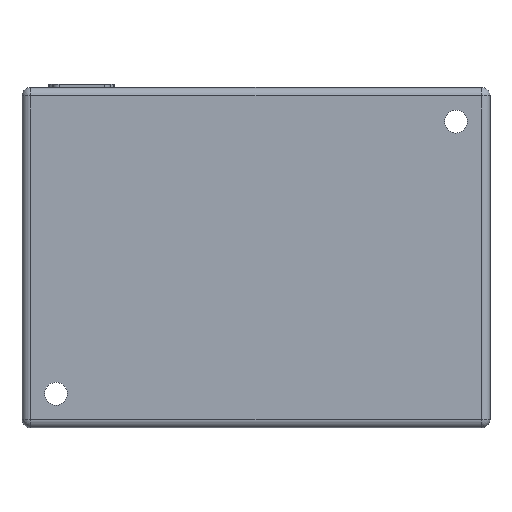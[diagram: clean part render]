
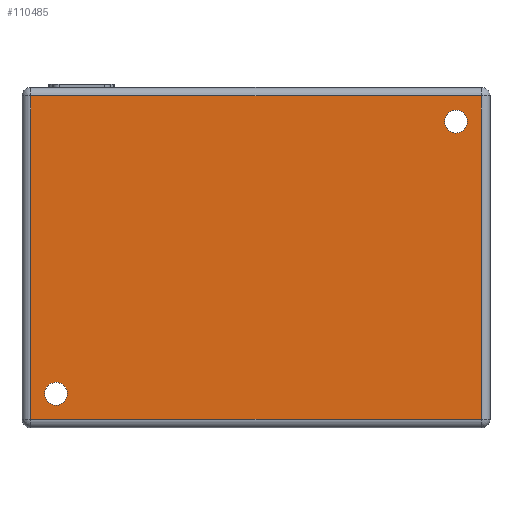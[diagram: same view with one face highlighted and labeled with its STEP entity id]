
A CAD part, front view. The second image highlights one B-rep face of the part: STEP entity #110485.
In plain terms, the highlighted planar face has unit normal (0, -1, 0).
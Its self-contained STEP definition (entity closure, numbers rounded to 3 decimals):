
#108649=DIRECTION('',(1.,0.,0.));
#108650=VECTOR('',#108649,53.);
#108651=CARTESIAN_POINT('',(-26.5,0.,-19.));
#108652=LINE('',#108651,#108650);
#108656=DIRECTION('',(0.,0.,-1.));
#108657=VECTOR('',#108656,38.);
#108658=CARTESIAN_POINT('',(-26.5,0.,19.));
#108659=LINE('',#108658,#108657);
#108663=DIRECTION('',(-1.,0.,0.));
#108664=VECTOR('',#108663,53.);
#108665=CARTESIAN_POINT('',(26.5,0.,19.));
#108666=LINE('',#108665,#108664);
#108670=DIRECTION('',(0.,0.,1.));
#108671=VECTOR('',#108670,38.);
#108672=CARTESIAN_POINT('',(26.5,0.,-19.));
#108673=LINE('',#108672,#108671);
#108677=CARTESIAN_POINT('',(23.5,0.,16.));
#108678=DIRECTION('',(0.,1.,0.));
#108679=DIRECTION('',(-1.,0.,0.));
#108680=AXIS2_PLACEMENT_3D('',#108677,#108678,#108679);
#108685=CARTESIAN_POINT('',(23.5,0.,16.));
#108686=DIRECTION('',(0.,1.,0.));
#108687=DIRECTION('',(1.,0.,0.));
#108688=AXIS2_PLACEMENT_3D('',#108685,#108686,#108687);
#108693=CARTESIAN_POINT('',(-23.5,0.,-16.));
#108694=DIRECTION('',(0.,1.,0.));
#108695=DIRECTION('',(-1.,0.,0.));
#108696=AXIS2_PLACEMENT_3D('',#108693,#108694,#108695);
#108701=CARTESIAN_POINT('',(-23.5,0.,-16.));
#108702=DIRECTION('',(0.,1.,0.));
#108703=DIRECTION('',(1.,0.,0.));
#108704=AXIS2_PLACEMENT_3D('',#108701,#108702,#108703);
#108935=CARTESIAN_POINT('',(-26.5,0.,-19.));
#108936=CARTESIAN_POINT('',(26.5,0.,-19.));
#108937=VERTEX_POINT('',#108935);
#108938=VERTEX_POINT('',#108936);
#108947=CARTESIAN_POINT('',(-26.5,0.,19.));
#108948=VERTEX_POINT('',#108947);
#108955=CARTESIAN_POINT('',(26.5,0.,19.));
#108956=VERTEX_POINT('',#108955);
#109061=CARTESIAN_POINT('',(22.15,0.,16.));
#109062=CARTESIAN_POINT('',(24.85,0.,16.));
#109063=VERTEX_POINT('',#109061);
#109064=VERTEX_POINT('',#109062);
#109065=CARTESIAN_POINT('',(-24.85,0.,-16.));
#109066=CARTESIAN_POINT('',(-22.15,0.,-16.));
#109067=VERTEX_POINT('',#109065);
#109068=VERTEX_POINT('',#109066);
#110460=CARTESIAN_POINT('',(0.,0.,0.));
#110461=DIRECTION('',(0.,1.,0.));
#110462=DIRECTION('',(1.,0.,0.));
#110463=AXIS2_PLACEMENT_3D('',#110460,#110461,#110462);
#110464=PLANE('',#110463);
#110465=ORIENTED_EDGE('',*,*,#110453,.F.);
#110466=ORIENTED_EDGE('',*,*,#109262,.F.);
#110468=ORIENTED_EDGE('',*,*,#110467,.F.);
#110470=ORIENTED_EDGE('',*,*,#110469,.F.);
#110471=EDGE_LOOP('',(#110465,#110466,#110468,#110470));
#110472=FACE_OUTER_BOUND('',#110471,.F.);
#110474=ORIENTED_EDGE('',*,*,#110473,.F.);
#110476=ORIENTED_EDGE('',*,*,#110475,.F.);
#110477=EDGE_LOOP('',(#110474,#110476));
#110478=FACE_BOUND('',#110477,.F.);
#110480=ORIENTED_EDGE('',*,*,#110479,.F.);
#110482=ORIENTED_EDGE('',*,*,#110481,.F.);
#110483=EDGE_LOOP('',(#110480,#110482));
#110484=FACE_BOUND('',#110483,.F.);
#110485=ADVANCED_FACE('',(#110472,#110478,#110484),#110464,.F.);
#108681=CIRCLE('',#108680,1.35);
#108689=CIRCLE('',#108688,1.35);
#108697=CIRCLE('',#108696,1.35);
#108705=CIRCLE('',#108704,1.35);
#109262=EDGE_CURVE('',#108948,#108937,#108659,.T.);
#110453=EDGE_CURVE('',#108937,#108938,#108652,.T.);
#110467=EDGE_CURVE('',#108956,#108948,#108666,.T.);
#110469=EDGE_CURVE('',#108938,#108956,#108673,.T.);
#110473=EDGE_CURVE('',#109063,#109064,#108681,.T.);
#110475=EDGE_CURVE('',#109064,#109063,#108689,.T.);
#110479=EDGE_CURVE('',#109067,#109068,#108697,.T.);
#110481=EDGE_CURVE('',#109068,#109067,#108705,.T.);
